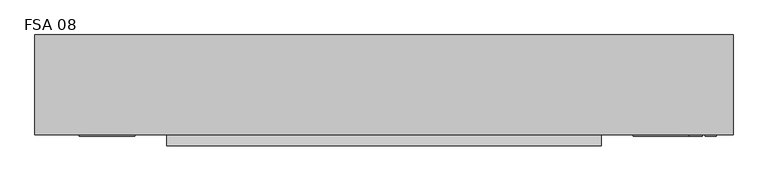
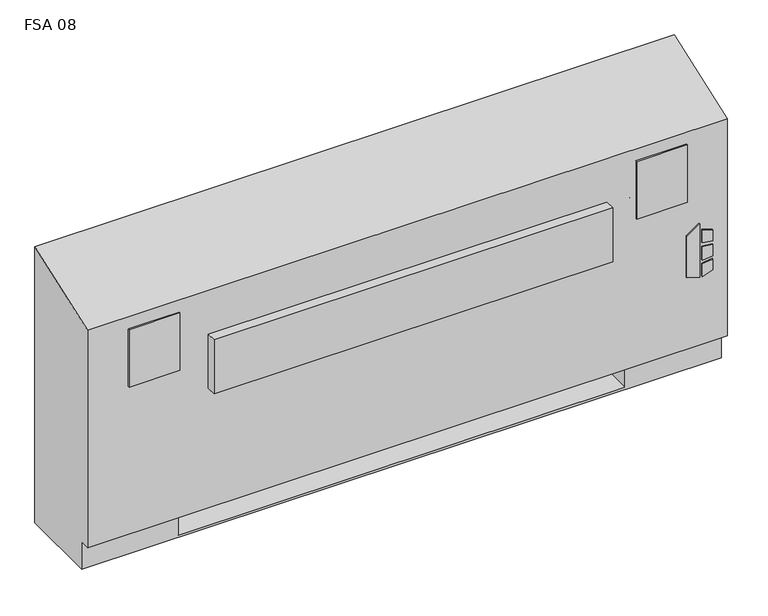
"""IFC4 building model written with IfcOpenShell, lengths in millimetres: proxy geometry, Vertical_Fan_Coil_Unit_-_FSA_-_IEC_-_4-Pipe_FS-FR_RH_2022 : FSA 08."""

from ifc_helpers import new_model, si_unit, point, frame, frame_2d, origin, place, context, project, spatial, polyline, circle_curve, trimmed, segment, composite_curve, outline, extrude, source, transform, mapped, element, save
from ifc_brep_helpers import plane_surface, revolved_surface, advanced_brep


def fsa_08_8c7590da(model_context):
    return source(origin(), model_context, "Body", "SolidModel", [
        extrude(outline(polyline([(263.9480703, 849.3868862), (254.0, 881.5602728), (396.1709244, 881.5602728), (373.1489183, 849.3868862), (263.9480703, 849.3868862)])), frame((0.0, 12.7, 0.0), z_axis=(0.0, 1.0, 0.0), x_axis=(0.0, 0.0, 1.0)), (0.0, 0.0, 1.0), 3.175),
        extrude(outline(polyline([(342.9473557, 888.3186058), (339.7449632, 914.4), (368.9738042, 914.4), (377.0382193, 888.3186058), (342.9473557, 888.3186058)])), frame((0.0, 12.7, 0.0), z_axis=(0.0, 1.0, 0.0), x_axis=(0.0, 0.0, 1.0)), (0.0, 0.0, 1.0), 3.175),
        extrude(outline(polyline([(291.0838288, 914.4), (287.4183279, 888.3186058), (254.0, 888.3186058), (262.6342372, 914.4), (291.0838288, 914.4)])), frame((0.0, 12.7, 0.0), z_axis=(0.0, 1.0, 0.0), x_axis=(0.0, 0.0, 1.0)), (0.0, 0.0, 1.0), 3.175),
        extrude(outline(polyline([(330.3989903, 914.4), (332.6808166, 888.3186058), (296.7432681, 888.3186058), (299.4845331, 914.4), (330.3989903, 914.4)])), frame((0.0, 12.7, 0.0), z_axis=(0.0, 1.0, 0.0), x_axis=(0.0, 0.0, 1.0)), (0.0, 0.0, 1.0), 3.175),
        extrude(outline(polyline([(-527.05, 81.534), (-527.05, 223.266), (-406.4, 223.266), (-406.4, 81.534), (-527.05, 81.534)])), frame((0.0, 0.0, 327.025), z_axis=(0.0, 0.0, 1.0), x_axis=(1.0, 0.0, 0.0)), (0.0, 0.0, 1.0), 260.35),
        extrude(outline(polyline([(-419.1, 12.7), (-546.1, 12.7), (-546.1, 15.875), (-419.1, 15.875), (-419.1, 12.7)])), frame((0.0, 0.0, 463.55), z_axis=(0.0, 0.0, 1.0), x_axis=(1.0, 0.0, 0.0)), (0.0, 0.0, 1.0), 152.4),
        extrude(outline(polyline([(850.9, 12.7), (723.9, 12.7), (723.9, 15.875), (850.9, 15.875), (850.9, 12.7)])), frame((0.0, 0.0, 463.55), z_axis=(0.0, 0.0, 1.0), x_axis=(1.0, 0.0, 0.0)), (0.0, 0.0, 1.0), 152.4),
        extrude(outline(composite_curve([segment(trimmed(circle_curve(frame_2d((774.7, 130.175)), 9.525), [point((765.175, 130.175))], [point((784.225, 130.175))], False, "CARTESIAN"), True, "CONTINUOUS"), segment(trimmed(circle_curve(frame_2d((774.7, 130.175)), 9.525), [point((784.225, 130.175))], [point((765.175, 130.175))], False, "CARTESIAN"), True, "CONTINUOUS")], self_intersect=False)), frame((0.0, 0.0, 101.6), z_axis=(0.0, 0.0, 1.0), x_axis=(1.0, 0.0, 0.0)), (0.0, 0.0, 1.0), 25.4),
        extrude(outline(polyline([(876.3, 196.85), (876.3, 63.5), (711.2, 63.5), (711.2, 196.85), (876.3, 196.85)])), frame((0.0, 0.0, 127.0), z_axis=(0.0, 0.0, 1.0), x_axis=(1.0, 0.0, 0.0)), (0.0, 0.0, 1.0), 50.8),
        extrude(outline(polyline([(650.875, -9.525), (-346.075, -9.525), (-346.075, 15.875), (650.875, 15.875), (650.875, -9.525)])), frame((0.0, 0.0, 389.3009245), z_axis=(0.0, 0.0, 1.0), x_axis=(1.0, 0.0, 0.0)), (0.0, 0.0, 1.0), 142.875),
        extrude(outline(composite_curve([segment(trimmed(circle_curve(frame_2d((109.0168, 457.2)), 7.9375), [point((109.0168, 465.1375))], [point((109.0168, 449.2625))], False, "CARTESIAN"), True, "CONTINUOUS"), segment(trimmed(circle_curve(frame_2d((109.0168, 457.2)), 7.9375), [point((109.0168, 449.2625))], [point((109.0168, 465.1375))], False, "CARTESIAN"), True, "CONTINUOUS")], self_intersect=False)), frame((711.2, 0.0, 0.0), z_axis=(1.0, 0.0, 0.0), x_axis=(0.0, 1.0, 0.0)), (0.0, 0.0, 1.0), 50.8),
        extrude(outline(composite_curve([segment(trimmed(circle_curve(frame_2d((172.085, 460.0194)), 7.9375), [point((172.085, 467.9569))], [point((172.085, 452.0819))], False, "CARTESIAN"), True, "CONTINUOUS"), segment(trimmed(circle_curve(frame_2d((172.085, 460.0194)), 7.9375), [point((172.085, 452.0819))], [point((172.085, 467.9569))], False, "CARTESIAN"), True, "CONTINUOUS")], self_intersect=False)), frame((711.2, 0.0, 0.0), z_axis=(1.0, 0.0, 0.0), x_axis=(0.0, 1.0, 0.0)), (0.0, 0.0, 1.0), 50.8),
        extrude(outline(composite_curve([segment(trimmed(circle_curve(frame_2d((53.975, 416.56)), 7.9502), [point((53.975, 424.5102))], [point((53.975, 408.6098))], False, "CARTESIAN"), True, "CONTINUOUS"), segment(trimmed(circle_curve(frame_2d((53.975, 416.56)), 7.9502), [point((53.975, 408.6098))], [point((53.975, 424.5102))], False, "CARTESIAN"), True, "CONTINUOUS")], self_intersect=False)), frame((711.2, 0.0, 0.0), z_axis=(1.0, 0.0, 0.0), x_axis=(0.0, 1.0, 0.0)), (0.0, 0.0, 1.0), 50.8),
        extrude(outline(composite_curve([segment(trimmed(circle_curve(frame_2d((130.175, 554.99)), 7.9502), [point((130.175, 562.9402))], [point((130.175, 547.0398))], False, "CARTESIAN"), True, "CONTINUOUS"), segment(trimmed(circle_curve(frame_2d((130.175, 554.99)), 7.9502), [point((130.175, 547.0398))], [point((130.175, 562.9402))], False, "CARTESIAN"), True, "CONTINUOUS")], self_intersect=False)), frame((711.2, 0.0, 0.0), z_axis=(1.0, 0.0, 0.0), x_axis=(0.0, 1.0, 0.0)), (0.0, 0.0, 1.0), 50.8),
        advanced_brep(
        [(-647.7, 244.475, 0.0), (952.5, 244.475, 0.0), (952.5, 41.275, 0.0), (-647.7, 41.275, 0.0), (-647.7, 244.475, 730.25), (952.5, 244.475, 730.25), (711.2, 244.475, 73.025), (939.8, 244.475, 73.025), (939.8, 244.475, 654.05), (711.2, 244.475, 654.05), (711.2, 244.475, 414.8650565), (739.775, 244.475, 414.8650565), (739.775, 244.475, 385.2349435), (711.2, 244.475, 385.2349435), (711.2, 244.475, 287.3375), (739.775, 244.475, 287.3375), (739.775, 244.475, 258.7625), (711.2, 244.475, 258.7625), (711.2, 244.475, 141.2875), (739.775, 244.475, 141.2875), (739.775, 244.475, 112.7125), (711.2, 244.475, 112.7125), (-406.4, 244.475, 654.05), (-635.0, 244.475, 654.05), (-635.0, 244.475, 73.025), (-406.4, 244.475, 73.025), (-406.4, 244.475, 112.7125), (-434.975, 244.475, 112.7125), (-434.975, 244.475, 141.2875), (-406.4, 244.475, 141.2875), (-406.4, 244.475, 258.7625), (-434.975, 244.475, 258.7625), (-434.975, 244.475, 287.3375), (-406.4, 244.475, 287.3375), (-406.4, 244.475, 385.2349435), (-434.975, 244.475, 385.2349435), (-434.975, 244.475, 414.8650565), (-406.4, 244.475, 414.8650565), (729.4626, 244.475, 127.0), (718.3374, 244.475, 127.0), (729.4626, 244.475, 400.05), (718.3374, 244.475, 400.05), (729.4626, 244.475, 273.05), (718.3374, 244.475, 273.05), (-413.5374, 244.475, 127.0), (-424.6626, 244.475, 127.0), (-413.5374, 244.475, 273.05), (-424.6626, 244.475, 273.05), (-413.5374, 244.475, 400.05), (-424.6626, 244.475, 400.05), (-647.7, 41.275, 73.025), (-647.7, 15.875, 73.025), (-647.7, 15.875, 647.7), (952.5, 15.875, 73.025), (952.5, 15.875, 647.7), (952.5, 41.275, 73.025), (-406.4, 41.275, 73.025), (-406.4, 225.425, 73.025), (711.2, 225.425, 73.025), (711.2, 41.275, 73.025), (711.2, 41.275, 6.35), (-406.4, 41.275, 6.35), (711.2, 41.275, 654.05), (939.8, 41.275, 654.05), (939.8, 41.275, 73.025), (711.2, 41.275, 73.025), (-406.4, 41.275, 654.05), (-406.4, 41.275, 73.025), (-635.0, 41.275, 73.025), (-635.0, 41.275, 654.05), (711.2, 225.425, 73.025), (711.2, 238.125, 112.7125), (711.2, 238.125, 141.2875), (711.2, 238.125, 258.7625), (711.2, 238.125, 287.3375), (711.2, 238.125, 385.2349435), (711.2, 238.125, 414.8650565), (-406.4, 225.425, 73.025), (-406.4, 238.125, 414.8650565), (-406.4, 238.125, 385.2349435), (-406.4, 238.125, 287.3375), (-406.4, 238.125, 258.7625), (-406.4, 238.125, 141.2875), (-406.4, 238.125, 112.7125), (-406.4, 225.425, 6.35), (711.2, 225.425, 6.35), (739.775, 238.125, 112.7125), (739.775, 238.125, 141.2875), (718.3374, 238.125, 127.0), (729.4626, 238.125, 127.0), (739.775, 238.125, 258.7625), (739.775, 238.125, 287.3375), (718.3374, 238.125, 273.05), (729.4626, 238.125, 273.05), (739.775, 238.125, 385.2349435), (739.775, 238.125, 414.8650565), (718.3374, 238.125, 400.05), (729.4626, 238.125, 400.05), (-434.975, 238.125, 141.2875), (-434.975, 238.125, 112.7125), (-424.6626, 238.125, 127.0), (-413.5374, 238.125, 127.0), (-434.975, 238.125, 287.3375), (-434.975, 238.125, 258.7625), (-424.6626, 238.125, 273.05), (-413.5374, 238.125, 273.05), (-434.975, 238.125, 414.8650565), (-434.975, 238.125, 385.2349435), (-424.6626, 238.125, 400.05), (-413.5374, 238.125, 400.05)],
        [
            (0, 1),
            (1, 2),
            (2, 3),
            (3, 0),
            (0, 4),
            (4, 5),
            (5, 1),
            (6, 7),
            (7, 8),
            (8, 9),
            (9, 10),
            (10, 11),
            (11, 12),
            (12, 13),
            (13, 14),
            (14, 15),
            (15, 16),
            (16, 17),
            (17, 18),
            (18, 19),
            (19, 20),
            (20, 21),
            (21, 6),
            (22, 23),
            (23, 24),
            (24, 25),
            (25, 26),
            (26, 27),
            (27, 28),
            (28, 29),
            (29, 30),
            (30, 31),
            (31, 32),
            (32, 33),
            (33, 34),
            (34, 35),
            (35, 36),
            (36, 37),
            (37, 22),
            (38, 39, circle_curve(frame((723.9, 244.475, 127.0), z_axis=(0.0, -1.0, 0.0), x_axis=(-1.0, 0.0, 0.0)), 5.5626)),
            (39, 38, circle_curve(frame((723.9, 244.475, 127.0), z_axis=(0.0, -1.0, 0.0), x_axis=(-1.0, 0.0, 0.0)), 5.5626)),
            (40, 41, circle_curve(frame((723.9, 244.475, 400.05), z_axis=(0.0, -1.0, 0.0), x_axis=(-1.0, 0.0, 0.0)), 5.5626)),
            (41, 40, circle_curve(frame((723.9, 244.475, 400.05), z_axis=(0.0, -1.0, 0.0), x_axis=(-1.0, 0.0, 0.0)), 5.5626)),
            (42, 43, circle_curve(frame((723.9, 244.475, 273.05), z_axis=(0.0, -1.0, 0.0), x_axis=(-1.0, 0.0, 0.0)), 5.5626)),
            (43, 42, circle_curve(frame((723.9, 244.475, 273.05), z_axis=(0.0, -1.0, 0.0), x_axis=(-1.0, 0.0, 0.0)), 5.5626)),
            (44, 45, circle_curve(frame((-419.1, 244.475, 127.0), z_axis=(0.0, -1.0, 0.0), x_axis=(-1.0, 0.0, 0.0)), 5.5626)),
            (45, 44, circle_curve(frame((-419.1, 244.475, 127.0), z_axis=(0.0, -1.0, 0.0), x_axis=(-1.0, 0.0, 0.0)), 5.5626)),
            (46, 47, circle_curve(frame((-419.1, 244.475, 273.05), z_axis=(0.0, -1.0, 0.0), x_axis=(-1.0, 0.0, 0.0)), 5.5626)),
            (47, 46, circle_curve(frame((-419.1, 244.475, 273.05), z_axis=(0.0, -1.0, 0.0), x_axis=(-1.0, 0.0, 0.0)), 5.5626)),
            (48, 49, circle_curve(frame((-419.1, 244.475, 400.05), z_axis=(0.0, -1.0, 0.0), x_axis=(-1.0, 0.0, 0.0)), 5.5626)),
            (49, 48, circle_curve(frame((-419.1, 244.475, 400.05), z_axis=(0.0, -1.0, 0.0), x_axis=(-1.0, 0.0, 0.0)), 5.5626)),
            (3, 50),
            (50, 51),
            (51, 52),
            (52, 4),
            (51, 53),
            (53, 54),
            (54, 52),
            (5, 54),
            (53, 55),
            (55, 2),
            (50, 56),
            (56, 57),
            (57, 58),
            (58, 59),
            (59, 55),
            (59, 60),
            (60, 61),
            (61, 56),
            (62, 63),
            (63, 64),
            (64, 65),
            (65, 62),
            (66, 67),
            (67, 68),
            (68, 69),
            (69, 66),
            (65, 70),
            (70, 6),
            (21, 71),
            (71, 72),
            (72, 18),
            (17, 73),
            (73, 74),
            (74, 14),
            (13, 75),
            (75, 76),
            (76, 10),
            (9, 62),
            (64, 7),
            (63, 8),
            (69, 23),
            (22, 66),
            (68, 24),
            (67, 77),
            (77, 25),
            (37, 78),
            (78, 79),
            (79, 34),
            (33, 80),
            (80, 81),
            (81, 30),
            (29, 82),
            (82, 83),
            (83, 26),
            (57, 84),
            (84, 85),
            (85, 58),
            (85, 60),
            (84, 61),
            (71, 86),
            (86, 87),
            (87, 72),
            (88, 89, circle_curve(frame((723.9, 238.125, 127.0), z_axis=(0.0, 1.0, 0.0), x_axis=(-1.0, 0.0, 0.0)), 5.5626)),
            (89, 88, circle_curve(frame((723.9, 238.125, 127.0), z_axis=(0.0, 1.0, 0.0), x_axis=(-1.0, 0.0, 0.0)), 5.5626)),
            (73, 90),
            (90, 91),
            (91, 74),
            (92, 93, circle_curve(frame((723.9, 238.125, 273.05), z_axis=(0.0, 1.0, 0.0), x_axis=(-1.0, 0.0, 0.0)), 5.5626)),
            (93, 92, circle_curve(frame((723.9, 238.125, 273.05), z_axis=(0.0, 1.0, 0.0), x_axis=(-1.0, 0.0, 0.0)), 5.5626)),
            (75, 94),
            (94, 95),
            (95, 76),
            (96, 97, circle_curve(frame((723.9, 238.125, 400.05), z_axis=(0.0, 1.0, 0.0), x_axis=(-1.0, 0.0, 0.0)), 5.5626)),
            (97, 96, circle_curve(frame((723.9, 238.125, 400.05), z_axis=(0.0, 1.0, 0.0), x_axis=(-1.0, 0.0, 0.0)), 5.5626)),
            (98, 99),
            (99, 83),
            (82, 98),
            (100, 101, circle_curve(frame((-419.1, 238.125, 127.0), z_axis=(0.0, 1.0, 0.0), x_axis=(-1.0, 0.0, 0.0)), 5.5626)),
            (101, 100, circle_curve(frame((-419.1, 238.125, 127.0), z_axis=(0.0, 1.0, 0.0), x_axis=(-1.0, 0.0, 0.0)), 5.5626)),
            (102, 103),
            (103, 81),
            (80, 102),
            (104, 105, circle_curve(frame((-419.1, 238.125, 273.05), z_axis=(0.0, 1.0, 0.0), x_axis=(-1.0, 0.0, 0.0)), 5.5626)),
            (105, 104, circle_curve(frame((-419.1, 238.125, 273.05), z_axis=(0.0, 1.0, 0.0), x_axis=(-1.0, 0.0, 0.0)), 5.5626)),
            (106, 107),
            (107, 79),
            (78, 106),
            (108, 109, circle_curve(frame((-419.1, 238.125, 400.05), z_axis=(0.0, 1.0, 0.0), x_axis=(-1.0, 0.0, 0.0)), 5.5626)),
            (109, 108, circle_curve(frame((-419.1, 238.125, 400.05), z_axis=(0.0, 1.0, 0.0), x_axis=(-1.0, 0.0, 0.0)), 5.5626)),
            (87, 19),
            (86, 20),
            (91, 15),
            (90, 16),
            (95, 11),
            (94, 12),
            (28, 98),
            (99, 27),
            (32, 102),
            (103, 31),
            (36, 106),
            (107, 35),
            (88, 39),
            (38, 89),
            (96, 41),
            (40, 97),
            (92, 43),
            (42, 93),
            (100, 45),
            (44, 101),
            (104, 47),
            (46, 105),
            (108, 49),
            (48, 109),
        ],
        [
            plane_surface(frame((-647.7, 244.475, 0.0), z_axis=(0.0, 0.0, -1.0), x_axis=(1.0, 0.0, 0.0))),
            plane_surface(frame((952.5, 244.475, 730.25), z_axis=(0.0, 1.0, 0.0), x_axis=(0.0, 0.0, -1.0))),
            plane_surface(frame((-647.7, 244.475, 730.25), z_axis=(-1.0, 0.0, 0.0), x_axis=(0.0, 0.0, -1.0))),
            plane_surface(frame((-647.7, 15.875, 730.25), z_axis=(0.0, -1.0, 0.0), x_axis=(0.0, 0.0, -1.0))),
            plane_surface(frame((952.5, 15.875, 730.25), z_axis=(1.0, 0.0, 0.0), x_axis=(0.0, 0.0, -1.0))),
            plane_surface(frame((-647.7, 15.875, 73.025), z_axis=(0.0, 0.0, -1.0), x_axis=(1.0, 0.0, 0.0))),
            plane_surface(frame((-647.7, 41.275, 73.025), z_axis=(0.0, -1.0, 0.0), x_axis=(1.0, 0.0, 0.0))),
            plane_surface(frame((711.2, 41.275, 654.05), z_axis=(0.0, 1.0, 0.0), x_axis=(0.0, 0.0, -1.0))),
            plane_surface(frame((711.2, 41.275, 654.05), z_axis=(1.0, 0.0, 0.0), x_axis=(0.0, 1.0, 0.0))),
            plane_surface(frame((711.2, 41.275, 73.025), z_axis=(0.0, 0.0, 1.0), x_axis=(0.0, 1.0, 0.0))),
            plane_surface(frame((939.8, 41.275, 73.025), z_axis=(-1.0, 0.0, 0.0), x_axis=(0.0, 1.0, 0.0))),
            plane_surface(frame((939.8, 41.275, 654.05), z_axis=(0.0, 0.0, -1.0), x_axis=(0.0, 1.0, 0.0))),
            plane_surface(frame((-406.4, 41.275, 654.05), z_axis=(0.0, 0.0, -1.0), x_axis=(0.0, 1.0, 0.0))),
            plane_surface(frame((-635.0, 41.275, 654.05), z_axis=(1.0, 0.0, 0.0), x_axis=(0.0, 1.0, 0.0))),
            plane_surface(frame((-635.0, 41.275, 73.025), z_axis=(0.0, 0.0, 1.0), x_axis=(0.0, 1.0, 0.0))),
            plane_surface(frame((-406.4, 41.275, 73.025), z_axis=(-1.0, 0.0, 0.0), x_axis=(0.0, 1.0, 0.0))),
            plane_surface(frame((711.2, 225.425, 73.025), z_axis=(0.0, -1.0, 0.0), x_axis=(0.0, 0.0, -1.0))),
            plane_surface(frame((711.2, 225.425, 73.025), z_axis=(-1.0, 0.0, 0.0), x_axis=(0.0, -1.0, 0.0))),
            plane_surface(frame((711.2, 225.425, 6.35), z_axis=(0.0, 0.0, 1.0), x_axis=(0.0, -1.0, 0.0))),
            plane_surface(frame((-406.4, 225.425, 6.35), z_axis=(1.0, 0.0, 0.0), x_axis=(0.0, -1.0, 0.0))),
            plane_surface(frame((739.775, 238.125, 141.2875), z_axis=(0.0, -1.0, 0.0), x_axis=(-1.0, 0.0, 0.0))),
            plane_surface(frame((711.2, 244.475, 141.2875), z_axis=(0.0, 0.0, 1.0), x_axis=(0.0, -1.0, 0.0))),
            plane_surface(frame((739.775, 244.475, 141.2875), z_axis=(1.0, 0.0, 0.0), x_axis=(0.0, -1.0, 0.0))),
            plane_surface(frame((739.775, 244.475, 112.7125), z_axis=(0.0, 0.0, -1.0), x_axis=(0.0, -1.0, 0.0))),
            plane_surface(frame((711.2, 244.475, 287.3375), z_axis=(0.0, 0.0, 1.0), x_axis=(0.0, -1.0, 0.0))),
            plane_surface(frame((739.775, 244.475, 287.3375), z_axis=(1.0, 0.0, 0.0), x_axis=(0.0, -1.0, 0.0))),
            plane_surface(frame((739.775, 244.475, 258.7625), z_axis=(0.0, 0.0, -1.0), x_axis=(0.0, -1.0, 0.0))),
            plane_surface(frame((711.2, 244.475, 414.8650565), z_axis=(0.0, 0.0, 1.0), x_axis=(0.0, -1.0, 0.0))),
            plane_surface(frame((739.775, 244.475, 414.8650565), z_axis=(1.0, 0.0, 0.0), x_axis=(0.0, -1.0, 0.0))),
            plane_surface(frame((739.775, 244.475, 385.2349435), z_axis=(0.0, 0.0, -1.0), x_axis=(0.0, -1.0, 0.0))),
            plane_surface(frame((-434.975, 244.475, 141.2875), z_axis=(0.0, 0.0, 1.0), x_axis=(0.0, -1.0, 0.0))),
            plane_surface(frame((-406.4, 244.475, 112.7125), z_axis=(0.0, 0.0, -1.0), x_axis=(0.0, -1.0, 0.0))),
            plane_surface(frame((-434.975, 244.475, 112.7125), z_axis=(-1.0, 0.0, 0.0), x_axis=(0.0, -1.0, 0.0))),
            plane_surface(frame((-434.975, 244.475, 287.3375), z_axis=(0.0, 0.0, 1.0), x_axis=(0.0, -1.0, 0.0))),
            plane_surface(frame((-406.4, 244.475, 258.7625), z_axis=(0.0, 0.0, -1.0), x_axis=(0.0, -1.0, 0.0))),
            plane_surface(frame((-434.975, 244.475, 258.7625), z_axis=(-1.0, 0.0, 0.0), x_axis=(0.0, -1.0, 0.0))),
            plane_surface(frame((-434.975, 244.475, 414.8650565), z_axis=(0.0, 0.0, 1.0), x_axis=(0.0, -1.0, 0.0))),
            plane_surface(frame((-406.4, 244.475, 385.2349435), z_axis=(0.0, 0.0, -1.0), x_axis=(0.0, -1.0, 0.0))),
            plane_surface(frame((-434.975, 244.475, 385.2349435), z_axis=(-1.0, 0.0, 0.0), x_axis=(0.0, -1.0, 0.0))),
            revolved_surface(polyline([(718.3374, 238.125, 127.0), (718.3374, 244.475, 127.0)]), (723.9, 244.475, 127.0), (0.0, -1.0, 0.0)),
            revolved_surface(polyline([(718.3374, 238.125, 400.05), (718.3374, 244.475, 400.05)]), (723.9, 244.475, 400.05), (0.0, -1.0, 0.0)),
            revolved_surface(polyline([(718.3374, 238.125, 273.05), (718.3374, 244.475, 273.05)]), (723.9, 244.475, 273.05), (0.0, -1.0, 0.0)),
            revolved_surface(polyline([(-424.6626, 238.125, 127.0), (-424.6626, 244.475, 127.0)]), (-419.1, 244.475, 127.0), (0.0, -1.0, 0.0)),
            revolved_surface(polyline([(-424.6626, 238.125, 273.05), (-424.6626, 244.475, 273.05)]), (-419.1, 244.475, 273.05), (0.0, -1.0, 0.0)),
            revolved_surface(polyline([(-424.6626, 238.125, 400.05), (-424.6626, 244.475, 400.05)]), (-419.1, 244.475, 400.05), (0.0, -1.0, 0.0)),
            plane_surface(frame((-647.7, 244.475, 730.25), z_axis=(0.0, -0.33964446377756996, 0.9405538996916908), x_axis=(1.0, 0.0, 0.0))),
        ],
        [
            (0, [[1, 2, 3, 4]]),
            (1, [[-1, 5, 6, 7], [8, 9, 10, 11, 12, 13, 14, 15, 16, 17, 18, 19, 20, 21, 22, 23], [24, 25, 26, 27, 28, 29, 30, 31, 32, 33, 34, 35, 36, 37, 38, 39], [40, 41], [42, 43], [44, 45], [46, 47], [48, 49], [50, 51]]),
            (2, [[-5, -4, 52, 53, 54, 55]]),
            (3, [[56, 57, 58, -54]]),
            (4, [[-7, 59, -57, 60, 61, -2]]),
            (5, [[-53, 62, 63, 64, 65, 66, -60, -56]]),
            (6, [[-3, -61, -66, 67, 68, 69, -62, -52]]),
            (7, [[70, 71, 72, 73]]),
            (7, [[74, 75, 76, 77]]),
            (8, [[-73, 78, 79, -23, 80, 81, 82, -19, 83, 84, 85, -15, 86, 87, 88, -11, 89]]),
            (9, [[-72, 90, -8, -79, -78]]),
            (10, [[-71, 91, -9, -90]]),
            (11, [[-70, -89, -10, -91]]),
            (12, [[-77, 92, -24, 93]]),
            (13, [[-76, 94, -25, -92]]),
            (14, [[-75, 95, 96, -26, -94]]),
            (15, [[-74, -93, -39, 97, 98, 99, -35, 100, 101, 102, -31, 103, 104, 105, -27, -96, -95]]),
            (16, [[-64, 106, 107, 108]]),
            (17, [[-108, 109, -67, -65]]),
            (18, [[-107, 110, -68, -109]]),
            (19, [[-106, -63, -69, -110]]),
            (20, [[111, 112, 113, -81], [114, 115]]),
            (20, [[116, 117, 118, -84], [119, 120]]),
            (20, [[121, 122, 123, -87], [124, 125]]),
            (20, [[126, 127, -104, 128], [129, 130]]),
            (20, [[131, 132, -101, 133], [134, 135]]),
            (20, [[136, 137, -98, 138], [139, 140]]),
            (21, [[-113, 141, -20, -82]]),
            (22, [[-112, 142, -21, -141]]),
            (23, [[-111, -80, -22, -142]]),
            (24, [[-118, 143, -16, -85]]),
            (25, [[-117, 144, -17, -143]]),
            (26, [[-116, -83, -18, -144]]),
            (27, [[-123, 145, -12, -88]]),
            (28, [[-122, 146, -13, -145]]),
            (29, [[-121, -86, -14, -146]]),
            (30, [[-128, -103, -30, 147]]),
            (31, [[-127, 148, -28, -105]]),
            (32, [[-126, -147, -29, -148]]),
            (33, [[-133, -100, -34, 149]]),
            (34, [[-132, 150, -32, -102]]),
            (35, [[-131, -149, -33, -150]]),
            (36, [[-138, -97, -38, 151]]),
            (37, [[-137, 152, -36, -99]]),
            (38, [[-136, -151, -37, -152]]),
            (39, [[153, -40, 154, -114]]),
            (39, [[-153, -115, -154, -41]]),
            (40, [[155, -42, 156, -124]]),
            (40, [[-155, -125, -156, -43]]),
            (41, [[157, -44, 158, -119]]),
            (41, [[-157, -120, -158, -45]]),
            (42, [[159, -46, 160, -129]]),
            (42, [[-159, -130, -160, -47]]),
            (43, [[161, -48, 162, -134]]),
            (43, [[-161, -135, -162, -49]]),
            (44, [[163, -50, 164, -139]]),
            (44, [[-163, -140, -164, -51]]),
            (45, [[-6, -55, -58, -59]]),
        ],
    ),
    ])


if __name__ == "__main__":
    model = new_model("IFC4")
    model_context = context("Model", 3, world=origin())
    ifc_project = project(units=[si_unit("LENGTHUNIT", "METRE", prefix="MILLI")], contexts=[model_context])
    site = spatial("IfcSite", under=ifc_project)
    building = spatial("IfcBuilding", under=site)
    placement = place(None, origin())
    fsa_08_shape = fsa_08_8c7590da(model_context)
    element("IfcBuildingElementProxy", 1, Name="Vertical_Fan_Coil_Unit_-_FSA_-_IEC_-_4-Pipe_FS-FR_RH_2022 : FSA 08", ObjectType="Vertical_Fan_Coil_Unit_-_FSA_-_IEC_-_4-Pipe_FS-FR_RH_2022 : FSA 08", at=placement, inside=building, context=model_context, shape_type="MappedRepresentation", body=[
        mapped(fsa_08_shape, transform((0.0, 0.0, 0.0), x_axis=(1.0, 0.0, 0.0), y_axis=(0.0, 1.0, 0.0), z_axis=(0.0, 0.0, 1.0))),
    ])
    save(model, "model.ifc")
